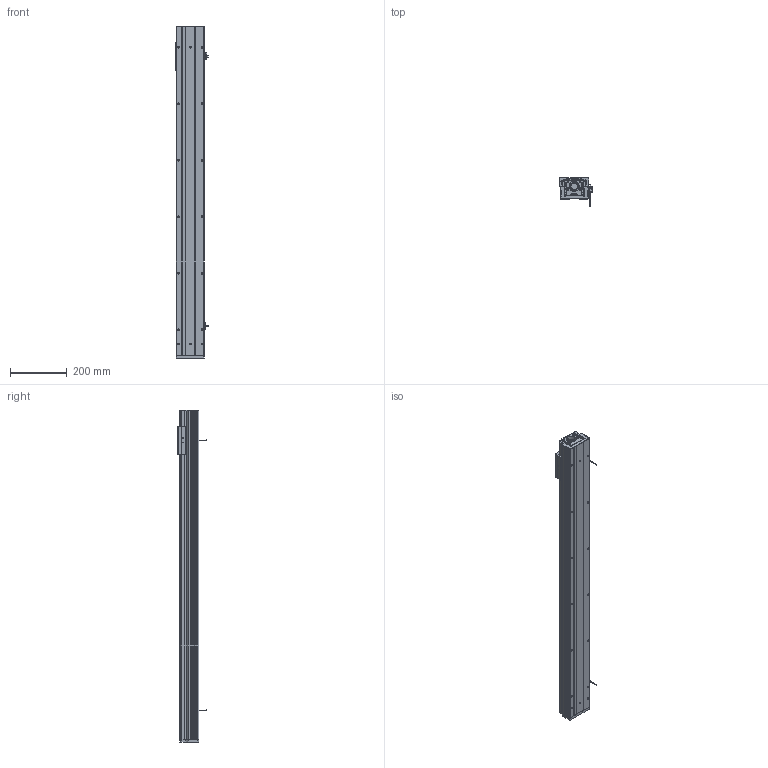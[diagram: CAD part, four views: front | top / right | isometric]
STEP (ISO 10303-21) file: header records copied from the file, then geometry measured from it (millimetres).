
FILE_DESCRIPTION (( 'STEP AP203' ), '1' );
FILE_NAME ('CTHM10-S950-O-BC - 副本.STEP', '2019-12-18T01:07:53', ( '微软用户' ), ( '微软中国' ), 'SwSTEP 2.0', 'SolidWorks 2017', '' );
FILE_SCHEMA (( 'CONFIG_CONTROL_DESIGN' ));
Length unit declared in the file: millimetre
Products named in the file (11): CTHM10裔啣(100); CTHM10傷裔(祥結裔啣); CTHM10綴傷裔; 覜茼え; 遣喳蝶15x12x8; CTHM10菁釱(200); EE-SX672-BR; CTHM10痄雄釱(党蜊); CTHM10-S950-O-BC - 萵掛; CTHM10盓傅耜; CTHM10固定侧自制轴承座
Assembly tree (14 placements, depth 2):
  CTHM10-S950-O-BC - 萵掛
    CTHM10菁釱(200)
    CTHM10痄雄釱(党蜊)
    CTHM10盓傅耜
    CTHM10固定侧自制轴承座
    CTHM10裔啣(100)
    CTHM10傷裔(祥結裔啣)
    CTHM10綴傷裔
    覜茼え
    遣喳蝶15x12x8  x4
    EE-SX672-BR  x2
Bounding box: 114.7 x 100.2 x 1175 mm (x, y, z)
Volume: 2945410.7 mm3; surface area: 985145.1 mm2
Topology: 14 solids, 14 shells, 970 faces, 2752 edges, 1796 vertices
Faces by surface type: cylinder 525, plane 401, cone 44
Entity records: 32951 total; most frequent: CARTESIAN_POINT 7951, DIRECTION 5030, ORIENTED_EDGE 4976, EDGE_CURVE 2488, AXIS2_PLACEMENT_3D 1849, VERTEX_POINT 1644, VECTOR 1332, LINE 1332
